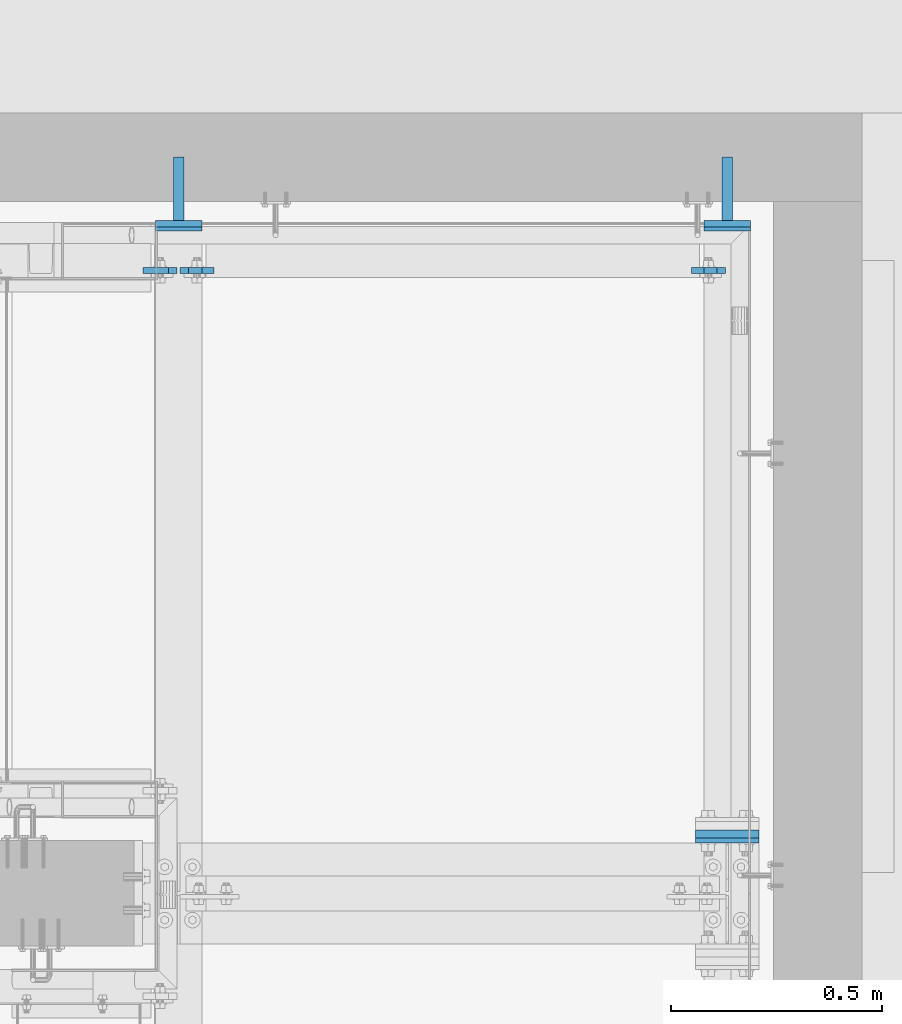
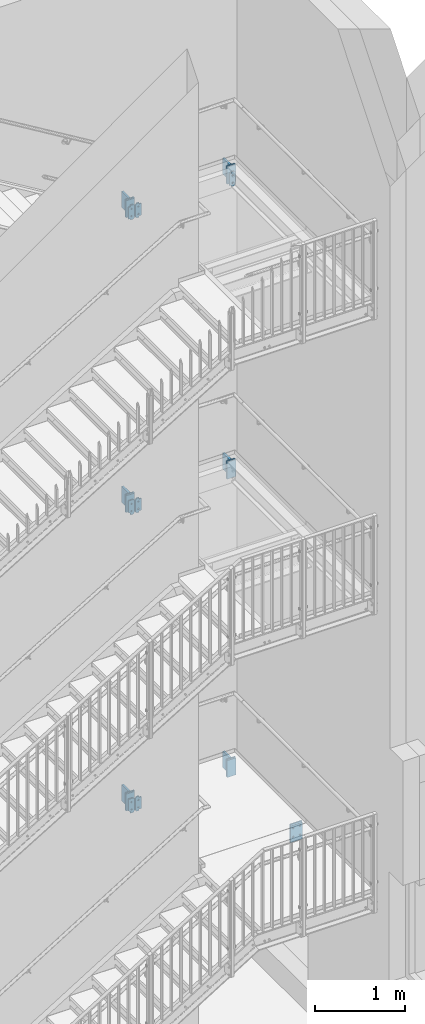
# One storey, part 66 of 410: 20 plates, 55 openings.
"""IFC2X3 building model written with IfcOpenShell, lengths in millimetres."""

from ifc_helpers import new_model, entity, si_unit, converted_unit, frame, frame_2d, origin, origin_with_axes, origin_2d_with_axis, place, context, project, spatial, polyline, circle, outline, extrude, material, layer, layer_set, element, save


model = new_model("IFC2X3")

# Units and contexts
model_context = context("Model", 3, precision=1e-09, world=origin_with_axes())
ifc_project = project(units=[si_unit("LENGTHUNIT", "METRE", prefix="MILLI"), si_unit("AREAUNIT", "SQUARE_METRE"), si_unit("VOLUMEUNIT", "CUBIC_METRE"), converted_unit("PLANEANGLEUNIT", "DEGREE", entity("IfcPlaneAngleMeasure", 0.01745329), si_unit("PLANEANGLEUNIT", "RADIAN"), dimensions=[0, 0, 0, 0, 0, 0, 0])], contexts=[model_context])

# Site, building, storey
site_placement = place(None, origin_with_axes())
site = spatial("IfcSite", under=ifc_project, at=site_placement, Name="mKR Teilneubau & Sanierung BA1 - Ostfildern", CompositionType="ELEMENT")
building_placement = place(site_placement, origin_with_axes())
building = spatial("IfcBuilding", under=site, at=building_placement, Name="Struktur 1", CompositionType="ELEMENT")
storey_placement = place(building_placement, origin_with_axes())
storey = spatial("IfcBuildingStorey", under=building, at=storey_placement, Name="Default Storey", CompositionType="ELEMENT", Elevation=0.0)

# Plate
ifc_material = material(Name="S235JR")
ifc_layer_1 = layer(ifc_material, 25.0)
ifc_layer_set_1 = layer_set([ifc_layer_1], Name="S235JR")
plate_1_placement = place(None, frame((3167.501468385, 18649.997183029, -2315.599999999), z_axis=(1.0, 0.0, 0.0), x_axis=(0.0, 1.0, 0.0)))
element("IfcPlate", 1, at=plate_1_placement, inside=storey, material=ifc_layer_set_1, Name="-", ObjectType="-", context=model_context, shape_type="SweptSolid", body=[
    extrude(outline(polyline([(-75.0, -110.0), (75.0, -110.0), (75.0, 110.0), (-75.0, 110.0), (-75.0, -110.0)])), origin_with_axes(), (0.0, 0.0, 1.0), 25.0),
])

# Plate, opening
plate_2_placement = place(None, frame((3180.001468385, 18574.996360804, -2325.6), z_axis=(0.0, -1.0, 0.0), x_axis=(1.0, 0.0, 0.0)))
plate_2 = element("IfcPlate", 2, at=plate_2_placement, inside=storey, material=ifc_layer_set_1, Name="-", ObjectType="-", context=model_context, shape_type="SweptSolid", body=[
    extrude(outline(polyline([(-55.0, -120.0), (55.0, -120.0), (55.0, 120.0), (-55.0, 120.0), (-55.0, -120.0)])), origin_with_axes(), (0.0, 0.0, 1.0), 25.0),
])
opening_1_placement = place(plate_2_placement, frame((-55.001, 120.0, 25.0), z_axis=(1.0, 0.0, 0.0), x_axis=(0.0, -1.0, 0.0)))
element("IfcOpeningElement", 3, at=opening_1_placement, cuts=plate_2, ObjectType="Opening", context=model_context, shape_type="SweptSolid", body=[
    extrude(outline(polyline([(0.0, 0.0), (9.0, 0.0), (0.0, 9.0), (0.0, 0.0)])), origin(), (0.0, 0.0, 1.0), 110.022),
])

# Plate
plate_3_placement = place(None, frame((3167.501468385, 18649.997183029, 1743.043478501), z_axis=(1.0, 0.0, 0.0), x_axis=(0.0, 1.0, 0.0)))
element("IfcPlate", 4, at=plate_3_placement, inside=storey, material=ifc_layer_set_1, Name="-", ObjectType="-", context=model_context, shape_type="SweptSolid", body=[
    extrude(outline(polyline([(-75.0, -110.0), (75.0, -110.0), (75.0, 110.0), (-75.0, 110.0), (-75.0, -110.0)])), origin_with_axes(), (0.0, 0.0, 1.0), 25.0),
])

# Plate, opening
plate_4_placement = place(None, frame((3180.001468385, 18574.996360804, 1733.0434785), z_axis=(0.0, -1.0, 0.0), x_axis=(1.0, 0.0, 0.0)))
plate_4 = element("IfcPlate", 5, at=plate_4_placement, inside=storey, material=ifc_layer_set_1, Name="-", ObjectType="-", context=model_context, shape_type="SweptSolid", body=[
    extrude(outline(polyline([(-55.0, -120.0), (55.0, -120.0), (55.0, 120.0), (-55.0, 120.0), (-55.0, -120.0)])), origin_with_axes(), (0.0, 0.0, 1.0), 25.0),
])
opening_2_placement = place(plate_4_placement, frame((-55.001, 120.0, 25.0), z_axis=(1.0, 0.0, 0.0), x_axis=(0.0, -1.0, 0.0)))
element("IfcOpeningElement", 6, at=opening_2_placement, cuts=plate_4, ObjectType="Opening", context=model_context, shape_type="SweptSolid", body=[
    extrude(outline(polyline([(0.0, 0.0), (9.0, 0.0), (0.0, 9.0), (0.0, 0.0)])), origin(), (0.0, 0.0, 1.0), 110.022),
])

# Plate
plate_5_placement = place(None, frame((1867.501468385, 18649.997183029, 1743.043478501), z_axis=(1.0, 0.0, 0.0), x_axis=(0.0, 1.0, 0.0)))
element("IfcPlate", 7, at=plate_5_placement, inside=storey, material=ifc_layer_set_1, Name="-", ObjectType="-", context=model_context, shape_type="SweptSolid", body=[
    extrude(outline(polyline([(-75.0, -110.0), (75.0, -110.0), (75.0, 110.0), (-75.0, 110.0), (-75.0, -110.0)])), origin_with_axes(), (0.0, 0.0, 1.0), 25.0),
])

# Plate, opening
plate_6_placement = place(None, frame((1880.001468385, 18574.996360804, 1733.0434785), z_axis=(0.0, -1.0, 0.0), x_axis=(1.0, 0.0, 0.0)))
plate_6 = element("IfcPlate", 8, at=plate_6_placement, inside=storey, material=ifc_layer_set_1, Name="-", ObjectType="-", context=model_context, shape_type="SweptSolid", body=[
    extrude(outline(polyline([(-55.0, -120.0), (55.0, -120.0), (55.0, 120.0), (-55.0, 120.0), (-55.0, -120.0)])), origin_with_axes(), (0.0, 0.0, 1.0), 25.0),
])
opening_3_placement = place(plate_6_placement, frame((-55.001, 120.0, 25.0), z_axis=(1.0, 0.0, 0.0), x_axis=(0.0, -1.0, 0.0)))
element("IfcOpeningElement", 9, at=opening_3_placement, cuts=plate_6, ObjectType="Opening", context=model_context, shape_type="SweptSolid", body=[
    extrude(outline(polyline([(0.0, 0.0), (9.0, 0.0), (0.0, 9.0), (0.0, 0.0)])), origin(), (0.0, 0.0, 1.0), 110.022),
])

# Plate, openings
ifc_layer_2 = layer(ifc_material, 30.0)
ifc_layer_set_2 = layer_set([ifc_layer_2], Name="S235JR")
plate_7_placement = place(None, frame((3180.001468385, 17100.0, -2325.599999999), z_axis=(0.0, 1.0, 0.0), x_axis=(-1.0, 0.0, 0.0)))
plate_7 = element("IfcPlate", 10, at=plate_7_placement, inside=storey, material=ifc_layer_set_2, Name="-", ObjectType="-", context=model_context, shape_type="SweptSolid", body=[
    extrude(outline(polyline([(-75.0, -120.0), (75.0, -120.0), (75.0, 120.0), (-75.0, 120.0), (-75.0, -120.0)])), origin_with_axes(), (0.0, 0.0, 1.0), 30.0),
])
opening_4_placement = place(plate_7_placement, frame((0.0, 10.0, -0.5), z_axis=(0.0, 0.0, 1.0), x_axis=(1.0, 0.0, 0.0)))
element("IfcOpeningElement", 11, at=opening_4_placement, cuts=plate_7, ObjectType="Opening", context=model_context, shape_type="SweptSolid", body=[
    extrude(circle(Radius=11.001, at=frame_2d((45.0, 60.0), x_axis=(1.0, 0.0))), origin(), (0.0, 0.0, 1.0), 31.0),
])
opening_5_placement = place(plate_7_placement, frame((0.0, 10.0, -0.5), z_axis=(0.0, 0.0, 1.0), x_axis=(1.0, 0.0, 0.0)))
element("IfcOpeningElement", 12, at=opening_5_placement, cuts=plate_7, ObjectType="Opening", context=model_context, shape_type="SweptSolid", body=[
    extrude(circle(Radius=11.001, at=frame_2d((-45.0, 60.0), x_axis=(1.0, 0.0))), origin(), (0.0, 0.0, 1.0), 31.0),
])
opening_6_placement = place(plate_7_placement, frame((0.0, 10.0, -0.5), z_axis=(0.0, 0.0, 1.0), x_axis=(1.0, 0.0, 0.0)))
element("IfcOpeningElement", 13, at=opening_6_placement, cuts=plate_7, ObjectType="Opening", context=model_context, shape_type="SweptSolid", body=[
    extrude(circle(Radius=11.001, at=frame_2d((45.0, -60.0), x_axis=(1.0, 0.0))), origin(), (0.0, 0.0, 1.0), 31.0),
])
opening_7_placement = place(plate_7_placement, frame((0.0, 10.0, -0.5), z_axis=(0.0, 0.0, 1.0), x_axis=(1.0, 0.0, 0.0)))
element("IfcOpeningElement", 14, at=opening_7_placement, cuts=plate_7, ObjectType="Opening", context=model_context, shape_type="SweptSolid", body=[
    extrude(circle(Radius=11.001, at=frame_2d((-45.0, -60.0), x_axis=(1.0, 0.0))), origin(), (0.0, 0.0, 1.0), 31.0),
])
opening_8_placement = place(plate_7_placement, frame((75.001, 120.0, 0.0), z_axis=(-1.0, 0.0, 0.0), x_axis=(0.0, -1.0, 0.0)))
element("IfcOpeningElement", 15, at=opening_8_placement, cuts=plate_7, ObjectType="Opening", context=model_context, shape_type="SweptSolid", body=[
    extrude(outline(polyline([(0.0, 0.0), (12.0, 0.0), (0.0, 12.0), (0.0, 0.0)])), origin(), (0.0, 0.0, 1.0), 150.022),
])
opening_9_placement = place(plate_7_placement, frame((0.0, 10.0, -0.5), z_axis=(0.0, 0.0, 1.0), x_axis=(1.0, 0.0, 0.0)))
element("IfcOpeningElement", 16, at=opening_9_placement, cuts=plate_7, ObjectType="Opening", context=model_context, shape_type="SweptSolid", body=[
    extrude(circle(Radius=11.001, at=frame_2d((45.0, 60.0), x_axis=(1.0, 0.0))), origin(), (0.0, 0.0, 1.0), 31.0),
])
opening_10_placement = place(plate_7_placement, frame((0.0, 10.0, -0.5), z_axis=(0.0, 0.0, 1.0), x_axis=(1.0, 0.0, 0.0)))
element("IfcOpeningElement", 17, at=opening_10_placement, cuts=plate_7, ObjectType="Opening", context=model_context, shape_type="SweptSolid", body=[
    extrude(circle(Radius=11.001, at=frame_2d((-45.0, 60.0), x_axis=(1.0, 0.0))), origin(), (0.0, 0.0, 1.0), 31.0),
])
opening_11_placement = place(plate_7_placement, frame((0.0, 10.0, -0.5), z_axis=(0.0, 0.0, 1.0), x_axis=(1.0, 0.0, 0.0)))
element("IfcOpeningElement", 18, at=opening_11_placement, cuts=plate_7, ObjectType="Opening", context=model_context, shape_type="SweptSolid", body=[
    extrude(circle(Radius=11.001, at=frame_2d((45.0, -60.0), x_axis=(1.0, 0.0))), origin(), (0.0, 0.0, 1.0), 31.0),
])
opening_12_placement = place(plate_7_placement, frame((0.0, 10.0, -0.5), z_axis=(0.0, 0.0, 1.0), x_axis=(1.0, 0.0, 0.0)))
element("IfcOpeningElement", 19, at=opening_12_placement, cuts=plate_7, ObjectType="Opening", context=model_context, shape_type="SweptSolid", body=[
    extrude(circle(Radius=11.001, at=frame_2d((-45.0, -60.0), x_axis=(1.0, 0.0))), origin(), (0.0, 0.0, 1.0), 31.0),
])

# Plate
plate_8_placement = place(None, frame((1867.501468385, 18649.997183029, -2315.599999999), z_axis=(1.0, 0.0, 0.0), x_axis=(0.0, 1.0, 0.0)))
element("IfcPlate", 20, at=plate_8_placement, inside=storey, material=ifc_layer_set_1, Name="-", ObjectType="-", context=model_context, shape_type="SweptSolid", body=[
    extrude(outline(polyline([(-75.0, -110.0), (75.0, -110.0), (75.0, 110.0), (-75.0, 110.0), (-75.0, -110.0)])), origin_with_axes(), (0.0, 0.0, 1.0), 25.0),
])

# Plate, opening
plate_9_placement = place(None, frame((1880.001468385, 18574.996360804, -2325.6), z_axis=(0.0, -1.0, 0.0), x_axis=(1.0, 0.0, 0.0)))
plate_9 = element("IfcPlate", 21, at=plate_9_placement, inside=storey, material=ifc_layer_set_1, Name="-", ObjectType="-", context=model_context, shape_type="SweptSolid", body=[
    extrude(outline(polyline([(-55.0, -120.0), (55.0, -120.0), (55.0, 120.0), (-55.0, 120.0), (-55.0, -120.0)])), origin_with_axes(), (0.0, 0.0, 1.0), 25.0),
])
opening_13_placement = place(plate_9_placement, frame((-55.001, 120.0, 25.0), z_axis=(1.0, 0.0, 0.0), x_axis=(0.0, -1.0, 0.0)))
element("IfcOpeningElement", 22, at=opening_13_placement, cuts=plate_9, ObjectType="Opening", context=model_context, shape_type="SweptSolid", body=[
    extrude(outline(polyline([(0.0, 0.0), (9.0, 0.0), (0.0, 9.0), (0.0, 0.0)])), origin(), (0.0, 0.0, 1.0), 110.022),
])

# Plate, openings
ifc_layer_3 = layer(ifc_material, 15.0)
ifc_layer_set_3 = layer_set([ifc_layer_3], Name="S235JR")
plate_10_placement = place(None, frame((1876.051468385, 18448.999999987, 5854.300000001), z_axis=(0.0, -1.0, 0.0), x_axis=(-1.0, 0.0, 0.0)))
plate_10 = element("IfcPlate", 23, at=plate_10_placement, inside=storey, material=ifc_layer_set_3, Name="LugPlate#1", ObjectType="LugPlate#1", context=model_context, shape_type="SweptSolid", body=[
    extrude(outline(polyline([(0.0, 0.0), (80.0, 0.0), (80.0, 198.6), (0.0, 198.6), (0.0, 0.0)])), origin_with_axes(), (0.0, 0.0, -1.0), 15.0),
])
opening_14_placement = place(plate_10_placement, frame((0.0, 0.0, 0.01), z_axis=(0.0, 0.0, 1.0), x_axis=(1.0, 0.0, 0.0)))
element("IfcOpeningElement", 24, at=opening_14_placement, cuts=plate_10, ObjectType="Opening", context=model_context, shape_type="SweptSolid", body=[
    extrude(outline(polyline([(0.0, 0.0), (20.0, 0.0), (0.0, 20.0), (0.0, 0.0)])), origin(), (0.0, 0.0, -1.0), 15.02),
])
opening_15_placement = place(plate_10_placement, frame((0.0, 198.6, 0.01), z_axis=(0.0, 0.0, 1.0), x_axis=(0.0, -1.0, 0.0)))
element("IfcOpeningElement", 25, at=opening_15_placement, cuts=plate_10, ObjectType="Opening", context=model_context, shape_type="SweptSolid", body=[
    extrude(outline(polyline([(0.0, 0.0), (20.0, 0.0), (0.0, 20.0), (0.0, 0.0)])), origin(), (0.0, 0.0, -1.0), 15.02),
])
opening_16_placement = place(plate_10_placement, frame((99.857709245, 209.301, -15.1), z_axis=(0.0, 0.0, -1.0), x_axis=(0.0, -1.0, 0.0)))
element("IfcOpeningElement", 26, at=opening_16_placement, cuts=plate_10, ObjectType="Opening", context=model_context, shape_type="SweptSolid", body=[
    extrude(outline(polyline([(0.0, 0.0), (30.002, 0.0), (30.002, 48.808709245), (0.0, 48.808709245), (0.0, 0.0)])), origin(), (0.0, 0.0, -1.0), 15.2),
])
opening_17_placement = place(plate_10_placement, frame((95.314579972, 19.301, -15.1), z_axis=(0.0, 0.0, -1.0), x_axis=(0.0, -1.0, 0.0)))
element("IfcOpeningElement", 27, at=opening_17_placement, cuts=plate_10, ObjectType="Opening", context=model_context, shape_type="SweptSolid", body=[
    extrude(outline(polyline([(0.0, 0.0), (30.001999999, 0.0), (30.001999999, 44.265579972), (0.0, 44.265579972), (0.0, 0.0)])), origin(), (0.0, 0.0, -1.0), 15.2),
])
opening_18_placement = place(plate_10_placement, frame((40.0, 49.300000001, -15.5), z_axis=(0.0, 0.0, 1.0), x_axis=(1.0, 0.0, 0.0)))
element("IfcOpeningElement", 28, at=opening_18_placement, cuts=plate_10, ObjectType="Opening", context=model_context, shape_type="SweptSolid", body=[
    extrude(circle(Radius=9.001, at=frame_2d((0.0, 100.0), x_axis=(1.0, 0.0))), origin(), (0.0, 0.0, 1.0), 16.0),
])
opening_19_placement = place(plate_10_placement, frame((40.0, 49.300000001, -15.5), z_axis=(0.0, 0.0, 1.0), x_axis=(1.0, 0.0, 0.0)))
element("IfcOpeningElement", 29, at=opening_19_placement, cuts=plate_10, ObjectType="Opening", context=model_context, shape_type="SweptSolid", body=[
    extrude(circle(Radius=9.001, at=origin_2d_with_axis()), origin(), (0.0, 0.0, 1.0), 16.0),
])

plate_11_placement = place(None, frame((1876.050468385, 18449.000000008, 1842.342478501), z_axis=(0.0, -1.0, 0.0), x_axis=(-1.0, 0.0, 0.0)))
plate_11 = element("IfcPlate", 30, at=plate_11_placement, inside=storey, material=ifc_layer_set_3, Name="LugPlate#1", ObjectType="LugPlate#1", context=model_context, shape_type="SweptSolid", body=[
    extrude(outline(polyline([(0.0, 0.0), (80.0, 0.0), (80.0, 198.6), (0.0, 198.6), (0.0, 0.0)])), origin_with_axes(), (0.0, 0.0, -1.0), 15.0),
])
opening_20_placement = place(plate_11_placement, frame((0.0, 0.0, 0.01), z_axis=(0.0, 0.0, 1.0), x_axis=(1.0, 0.0, 0.0)))
element("IfcOpeningElement", 31, at=opening_20_placement, cuts=plate_11, ObjectType="Opening", context=model_context, shape_type="SweptSolid", body=[
    extrude(outline(polyline([(0.0, 0.0), (20.0, 0.0), (0.0, 20.0), (0.0, 0.0)])), origin(), (0.0, 0.0, -1.0), 15.02),
])
opening_21_placement = place(plate_11_placement, frame((0.0, 198.6, 0.01), z_axis=(0.0, 0.0, 1.0), x_axis=(0.0, -1.0, 0.0)))
element("IfcOpeningElement", 32, at=opening_21_placement, cuts=plate_11, ObjectType="Opening", context=model_context, shape_type="SweptSolid", body=[
    extrude(outline(polyline([(0.0, 0.0), (20.0, 0.0), (0.0, 20.0), (0.0, 0.0)])), origin(), (0.0, 0.0, -1.0), 15.02),
])
opening_22_placement = place(plate_11_placement, frame((100.040499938, 215.84577283, -15.1), z_axis=(0.0, 0.0, -1.0), x_axis=(0.127825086, -0.991796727, 0.0)))
element("IfcOpeningElement", 33, at=opening_22_placement, cuts=plate_11, ObjectType="Opening", context=model_context, shape_type="SweptSolid", body=[
    extrude(outline(polyline([(0.0, 0.0), (76.985732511, 0.0), (34.405529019, 53.83097988), (0.228865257, 49.426211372), (0.0, 0.0)])), origin(), (0.0, 0.0, -1.0), 15.2),
])
opening_23_placement = place(plate_11_placement, frame((40.0, 49.300000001, -15.5), z_axis=(0.0, 0.0, 1.0), x_axis=(1.0, 0.0, 0.0)))
element("IfcOpeningElement", 34, at=opening_23_placement, cuts=plate_11, ObjectType="Opening", context=model_context, shape_type="SweptSolid", body=[
    extrude(circle(Radius=9.001, at=frame_2d((0.0, 100.0), x_axis=(1.0, 0.0))), origin(), (0.0, 0.0, 1.0), 16.0),
])
opening_24_placement = place(plate_11_placement, frame((40.0, 49.300000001, -15.5), z_axis=(0.0, 0.0, 1.0), x_axis=(1.0, 0.0, 0.0)))
element("IfcOpeningElement", 35, at=opening_24_placement, cuts=plate_11, ObjectType="Opening", context=model_context, shape_type="SweptSolid", body=[
    extrude(circle(Radius=9.001, at=origin_2d_with_axis()), origin(), (0.0, 0.0, 1.0), 16.0),
])

plate_12_placement = place(None, frame((1876.050468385, 18448.999999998, -2216.300999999), z_axis=(0.0, -1.0, 0.0), x_axis=(-1.0, 0.0, 0.0)))
plate_12 = element("IfcPlate", 36, at=plate_12_placement, inside=storey, material=ifc_layer_set_3, Name="LugPlate#1", ObjectType="LugPlate#1", context=model_context, shape_type="SweptSolid", body=[
    extrude(outline(polyline([(0.0, 0.0), (80.0, 0.0), (80.0, 198.6), (0.0, 198.6), (0.0, 0.0)])), origin_with_axes(), (0.0, 0.0, -1.0), 15.0),
])
opening_25_placement = place(plate_12_placement, frame((0.0, 0.0, 0.01), z_axis=(0.0, 0.0, 1.0), x_axis=(1.0, 0.0, 0.0)))
element("IfcOpeningElement", 37, at=opening_25_placement, cuts=plate_12, ObjectType="Opening", context=model_context, shape_type="SweptSolid", body=[
    extrude(outline(polyline([(0.0, 0.0), (20.0, 0.0), (0.0, 20.0), (0.0, 0.0)])), origin(), (0.0, 0.0, -1.0), 15.02),
])
opening_26_placement = place(plate_12_placement, frame((0.0, 198.6, 0.01), z_axis=(0.0, 0.0, 1.0), x_axis=(0.0, -1.0, 0.0)))
element("IfcOpeningElement", 38, at=opening_26_placement, cuts=plate_12, ObjectType="Opening", context=model_context, shape_type="SweptSolid", body=[
    extrude(outline(polyline([(0.0, 0.0), (20.0, 0.0), (0.0, 20.0), (0.0, 0.0)])), origin(), (0.0, 0.0, -1.0), 15.02),
])
opening_27_placement = place(plate_12_placement, frame((100.040499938, 215.84577283, -15.1), z_axis=(0.0, 0.0, -1.0), x_axis=(0.127825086, -0.991796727, 0.0)))
element("IfcOpeningElement", 39, at=opening_27_placement, cuts=plate_12, ObjectType="Opening", context=model_context, shape_type="SweptSolid", body=[
    extrude(outline(polyline([(0.0, 0.0), (76.985732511, 0.0), (34.405529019, 53.83097988), (0.228865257, 49.426211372), (0.0, 0.0)])), origin(), (0.0, 0.0, -1.0), 15.2),
])
opening_28_placement = place(plate_12_placement, frame((40.0, 49.300000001, -15.5), z_axis=(0.0, 0.0, 1.0), x_axis=(1.0, 0.0, 0.0)))
element("IfcOpeningElement", 40, at=opening_28_placement, cuts=plate_12, ObjectType="Opening", context=model_context, shape_type="SweptSolid", body=[
    extrude(circle(Radius=9.001, at=frame_2d((0.0, 100.0), x_axis=(1.0, 0.0))), origin(), (0.0, 0.0, 1.0), 16.0),
])
opening_29_placement = place(plate_12_placement, frame((40.0, 49.300000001, -15.5), z_axis=(0.0, 0.0, 1.0), x_axis=(1.0, 0.0, 0.0)))
element("IfcOpeningElement", 41, at=opening_29_placement, cuts=plate_12, ObjectType="Opening", context=model_context, shape_type="SweptSolid", body=[
    extrude(circle(Radius=9.001, at=origin_2d_with_axis()), origin(), (0.0, 0.0, 1.0), 16.0),
])

# Plate
plate_13_placement = place(None, frame((1867.501468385, 18649.997183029, 5755.000000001), z_axis=(1.0, 0.0, 0.0), x_axis=(0.0, 1.0, 0.0)))
element("IfcPlate", 42, at=plate_13_placement, inside=storey, material=ifc_layer_set_1, Name="-", ObjectType="-", context=model_context, shape_type="SweptSolid", body=[
    extrude(outline(polyline([(-75.0, -110.0), (75.0, -110.0), (75.0, 110.0), (-75.0, 110.0), (-75.0, -110.0)])), origin_with_axes(), (0.0, 0.0, 1.0), 25.0),
])

# Plate, opening
plate_14_placement = place(None, frame((1880.001468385, 18574.996360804, 5745.0), z_axis=(0.0, -1.0, 0.0), x_axis=(1.0, 0.0, 0.0)))
plate_14 = element("IfcPlate", 43, at=plate_14_placement, inside=storey, material=ifc_layer_set_1, Name="-", ObjectType="-", context=model_context, shape_type="SweptSolid", body=[
    extrude(outline(polyline([(-55.0, -120.0), (55.0, -120.0), (55.0, 120.0), (-55.0, 120.0), (-55.0, -120.0)])), origin_with_axes(), (0.0, 0.0, 1.0), 25.0),
])
opening_30_placement = place(plate_14_placement, frame((-55.001, 120.0, 25.0), z_axis=(1.0, 0.0, 0.0), x_axis=(0.0, -1.0, 0.0)))
element("IfcOpeningElement", 44, at=opening_30_placement, cuts=plate_14, ObjectType="Opening", context=model_context, shape_type="SweptSolid", body=[
    extrude(outline(polyline([(0.0, 0.0), (9.0, 0.0), (0.0, 9.0), (0.0, 0.0)])), origin(), (0.0, 0.0, 1.0), 110.022),
])

# Plate, openings
plate_15_placement = place(None, frame((3176.051468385, 18448.999999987, 5854.300000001), z_axis=(0.0, -1.0, 0.0), x_axis=(-1.0, 0.0, 0.0)))
plate_15 = element("IfcPlate", 45, at=plate_15_placement, inside=storey, material=ifc_layer_set_3, Name="LugPlate#1", ObjectType="LugPlate#1", context=model_context, shape_type="SweptSolid", body=[
    extrude(outline(polyline([(0.0, 0.0), (80.0, 0.0), (80.0, 198.6), (0.0, 198.6), (0.0, 0.0)])), origin_with_axes(), (0.0, 0.0, -1.0), 15.0),
])
opening_31_placement = place(plate_15_placement, frame((0.0, 0.0, 0.01), z_axis=(0.0, 0.0, 1.0), x_axis=(1.0, 0.0, 0.0)))
element("IfcOpeningElement", 46, at=opening_31_placement, cuts=plate_15, ObjectType="Opening", context=model_context, shape_type="SweptSolid", body=[
    extrude(outline(polyline([(0.0, 0.0), (20.0, 0.0), (0.0, 20.0), (0.0, 0.0)])), origin(), (0.0, 0.0, -1.0), 15.02),
])
opening_32_placement = place(plate_15_placement, frame((0.0, 198.6, 0.01), z_axis=(0.0, 0.0, 1.0), x_axis=(0.0, -1.0, 0.0)))
element("IfcOpeningElement", 47, at=opening_32_placement, cuts=plate_15, ObjectType="Opening", context=model_context, shape_type="SweptSolid", body=[
    extrude(outline(polyline([(0.0, 0.0), (20.0, 0.0), (0.0, 20.0), (0.0, 0.0)])), origin(), (0.0, 0.0, -1.0), 15.02),
])
opening_33_placement = place(plate_15_placement, frame((99.857709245, 209.301, -15.1), z_axis=(0.0, 0.0, -1.0), x_axis=(0.0, -1.0, 0.0)))
element("IfcOpeningElement", 48, at=opening_33_placement, cuts=plate_15, ObjectType="Opening", context=model_context, shape_type="SweptSolid", body=[
    extrude(outline(polyline([(0.0, 0.0), (30.002, 0.0), (30.002, 48.808709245), (0.0, 48.808709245), (0.0, 0.0)])), origin(), (0.0, 0.0, -1.0), 15.2),
])
opening_34_placement = place(plate_15_placement, frame((95.314579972, 19.301, -15.1), z_axis=(0.0, 0.0, -1.0), x_axis=(0.0, -1.0, 0.0)))
element("IfcOpeningElement", 49, at=opening_34_placement, cuts=plate_15, ObjectType="Opening", context=model_context, shape_type="SweptSolid", body=[
    extrude(outline(polyline([(0.0, 0.0), (30.001999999, 0.0), (30.001999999, 44.265579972), (0.0, 44.265579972), (0.0, 0.0)])), origin(), (0.0, 0.0, -1.0), 15.2),
])
opening_35_placement = place(plate_15_placement, frame((40.0, 49.300000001, -15.5), z_axis=(0.0, 0.0, 1.0), x_axis=(1.0, 0.0, 0.0)))
element("IfcOpeningElement", 50, at=opening_35_placement, cuts=plate_15, ObjectType="Opening", context=model_context, shape_type="SweptSolid", body=[
    extrude(circle(Radius=9.001, at=frame_2d((0.0, 100.0), x_axis=(1.0, 0.0))), origin(), (0.0, 0.0, 1.0), 16.0),
])
opening_36_placement = place(plate_15_placement, frame((40.0, 49.300000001, -15.5), z_axis=(0.0, 0.0, 1.0), x_axis=(1.0, 0.0, 0.0)))
element("IfcOpeningElement", 51, at=opening_36_placement, cuts=plate_15, ObjectType="Opening", context=model_context, shape_type="SweptSolid", body=[
    extrude(circle(Radius=9.001, at=origin_2d_with_axis()), origin(), (0.0, 0.0, 1.0), 16.0),
])

plate_16_placement = place(None, frame((1883.951468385, 18448.999999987, 5854.300000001), z_axis=(0.0, 1.0, 0.0), x_axis=(1.0, 0.0, 0.0)))
plate_16 = element("IfcPlate", 52, at=plate_16_placement, inside=storey, material=ifc_layer_set_3, Name="LugPlate#1", ObjectType="LugPlate#1", context=model_context, shape_type="SweptSolid", body=[
    extrude(outline(polyline([(0.0, 0.0), (80.0, 0.0), (80.0, 198.6), (0.0, 198.6), (0.0, 0.0)])), origin_with_axes(), (0.0, 0.0, 1.0), 15.0),
])
opening_37_placement = place(plate_16_placement, frame((0.0, 0.0, -0.01), z_axis=(0.0, 0.0, 1.0), x_axis=(1.0, 0.0, 0.0)))
element("IfcOpeningElement", 53, at=opening_37_placement, cuts=plate_16, ObjectType="Opening", context=model_context, shape_type="SweptSolid", body=[
    extrude(outline(polyline([(0.0, 0.0), (20.0, 0.0), (0.0, 20.0), (0.0, 0.0)])), origin(), (0.0, 0.0, 1.0), 15.02),
])
opening_38_placement = place(plate_16_placement, frame((0.0, 0.0, -0.01), z_axis=(0.0, 0.0, 1.0), x_axis=(1.0, 0.0, 0.0)))
element("IfcOpeningElement", 54, at=opening_38_placement, cuts=plate_16, ObjectType="Opening", context=model_context, shape_type="SweptSolid", body=[
    extrude(outline(polyline([(0.0, 198.6), (0.0, 178.6), (20.0, 198.6), (0.0, 198.6)])), origin(), (0.0, 0.0, 1.0), 15.02),
])
opening_39_placement = place(plate_16_placement, frame((0.0, 0.0, 15.1), z_axis=(0.0, 0.0, -1.0), x_axis=(0.0, -1.0, 0.0)))
element("IfcOpeningElement", 55, at=opening_39_placement, cuts=plate_16, ObjectType="Opening", context=model_context, shape_type="SweptSolid", body=[
    extrude(outline(polyline([(-209.301, -99.857709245), (-179.299, -99.857709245), (-179.299, -51.049), (-209.301, -51.049), (-209.301, -99.857709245)])), origin(), (0.0, 0.0, 1.0), 15.2),
])
opening_40_placement = place(plate_16_placement, frame((0.0, 0.0, 15.1), z_axis=(0.0, 0.0, -1.0), x_axis=(0.0, -1.0, 0.0)))
element("IfcOpeningElement", 56, at=opening_40_placement, cuts=plate_16, ObjectType="Opening", context=model_context, shape_type="SweptSolid", body=[
    extrude(outline(polyline([(-19.301, -95.314579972), (10.700999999, -95.314579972), (10.700999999, -51.049), (-19.301, -51.049), (-19.301, -95.314579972)])), origin(), (0.0, 0.0, 1.0), 15.2),
])
opening_41_placement = place(plate_16_placement, frame((30.999, 149.300000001, 15.5), z_axis=(0.0, 0.0, 1.0), x_axis=(1.0, 0.0, 0.0)))
element("IfcOpeningElement", 57, at=opening_41_placement, cuts=plate_16, ObjectType="Opening", context=model_context, shape_type="SweptSolid", body=[
    extrude(circle(Radius=9.001, at=frame_2d((9.001, 0.0), x_axis=(1.0, 0.0))), origin(), (0.0, 0.0, -1.0), 16.0),
])
opening_42_placement = place(plate_16_placement, frame((30.999, 49.300000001, 15.5), z_axis=(0.0, 0.0, 1.0), x_axis=(1.0, 0.0, 0.0)))
element("IfcOpeningElement", 58, at=opening_42_placement, cuts=plate_16, ObjectType="Opening", context=model_context, shape_type="SweptSolid", body=[
    extrude(circle(Radius=9.001, at=frame_2d((9.001, 0.0), x_axis=(1.0, 0.0))), origin(), (0.0, 0.0, -1.0), 16.0),
])

# Plate
plate_17_placement = place(None, frame((3167.501468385, 18649.997183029, 5755.000000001), z_axis=(1.0, 0.0, 0.0), x_axis=(0.0, 1.0, 0.0)))
element("IfcPlate", 59, at=plate_17_placement, inside=storey, material=ifc_layer_set_1, Name="-", ObjectType="-", context=model_context, shape_type="SweptSolid", body=[
    extrude(outline(polyline([(-75.0, -110.0), (75.0, -110.0), (75.0, 110.0), (-75.0, 110.0), (-75.0, -110.0)])), origin_with_axes(), (0.0, 0.0, 1.0), 25.0),
])

# Plate, opening
plate_18_placement = place(None, frame((3180.001468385, 18574.996360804, 5745.0), z_axis=(0.0, -1.0, 0.0), x_axis=(1.0, 0.0, 0.0)))
plate_18 = element("IfcPlate", 60, at=plate_18_placement, inside=storey, material=ifc_layer_set_1, Name="-", ObjectType="-", context=model_context, shape_type="SweptSolid", body=[
    extrude(outline(polyline([(-55.0, -120.0), (55.0, -120.0), (55.0, 120.0), (-55.0, 120.0), (-55.0, -120.0)])), origin_with_axes(), (0.0, 0.0, 1.0), 25.0),
])
opening_43_placement = place(plate_18_placement, frame((-55.001, 120.0, 25.0), z_axis=(1.0, 0.0, 0.0), x_axis=(0.0, -1.0, 0.0)))
element("IfcOpeningElement", 61, at=opening_43_placement, cuts=plate_18, ObjectType="Opening", context=model_context, shape_type="SweptSolid", body=[
    extrude(outline(polyline([(0.0, 0.0), (9.0, 0.0), (0.0, 9.0), (0.0, 0.0)])), origin(), (0.0, 0.0, 1.0), 110.022),
])

# Plate, openings
plate_19_placement = place(None, frame((1883.951468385, 18448.999999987, 1842.343478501), z_axis=(0.0, 1.0, 0.0), x_axis=(1.0, 0.0, 0.0)))
plate_19 = element("IfcPlate", 62, at=plate_19_placement, inside=storey, material=ifc_layer_set_3, Name="LugPlate#1", ObjectType="LugPlate#1", context=model_context, shape_type="SweptSolid", body=[
    extrude(outline(polyline([(0.0, 0.0), (80.0, 0.0), (80.0, 198.6), (0.0, 198.6), (0.0, 0.0)])), origin_with_axes(), (0.0, 0.0, 1.0), 15.0),
])
opening_44_placement = place(plate_19_placement, frame((0.0, 0.0, -0.01), z_axis=(0.0, 0.0, 1.0), x_axis=(1.0, 0.0, 0.0)))
element("IfcOpeningElement", 63, at=opening_44_placement, cuts=plate_19, ObjectType="Opening", context=model_context, shape_type="SweptSolid", body=[
    extrude(outline(polyline([(0.0, 0.0), (20.0, 0.0), (0.0, 20.0), (0.0, 0.0)])), origin(), (0.0, 0.0, 1.0), 15.02),
])
opening_45_placement = place(plate_19_placement, frame((0.0, 0.0, -0.01), z_axis=(0.0, 0.0, 1.0), x_axis=(1.0, 0.0, 0.0)))
element("IfcOpeningElement", 64, at=opening_45_placement, cuts=plate_19, ObjectType="Opening", context=model_context, shape_type="SweptSolid", body=[
    extrude(outline(polyline([(0.0, 198.6), (0.0, 178.6), (20.0, 198.6), (0.0, 198.6)])), origin(), (0.0, 0.0, 1.0), 15.02),
])
opening_46_placement = place(plate_19_placement, frame((0.0, 0.0, 15.1), z_axis=(0.0, 0.0, -1.0), x_axis=(0.0, -1.0, 0.0)))
element("IfcOpeningElement", 65, at=opening_46_placement, cuts=plate_19, ObjectType="Opening", context=model_context, shape_type="SweptSolid", body=[
    extrude(outline(polyline([(-209.301, -99.857709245), (-179.299, -99.857709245), (-179.299, -51.049), (-209.301, -51.049), (-209.301, -99.857709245)])), origin(), (0.0, 0.0, 1.0), 15.2),
])
opening_47_placement = place(plate_19_placement, frame((0.0, 0.0, 15.1), z_axis=(0.0, 0.0, -1.0), x_axis=(0.0, -1.0, 0.0)))
element("IfcOpeningElement", 66, at=opening_47_placement, cuts=plate_19, ObjectType="Opening", context=model_context, shape_type="SweptSolid", body=[
    extrude(outline(polyline([(-19.301, -95.314579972), (10.700999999, -95.314579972), (10.700999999, -51.049), (-19.301, -51.049), (-19.301, -95.314579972)])), origin(), (0.0, 0.0, 1.0), 15.2),
])
opening_48_placement = place(plate_19_placement, frame((30.999, 149.300000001, 15.5), z_axis=(0.0, 0.0, 1.0), x_axis=(1.0, 0.0, 0.0)))
element("IfcOpeningElement", 67, at=opening_48_placement, cuts=plate_19, ObjectType="Opening", context=model_context, shape_type="SweptSolid", body=[
    extrude(circle(Radius=9.001, at=frame_2d((9.001, 0.0), x_axis=(1.0, 0.0))), origin(), (0.0, 0.0, -1.0), 16.0),
])
opening_49_placement = place(plate_19_placement, frame((30.999, 49.300000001, 15.5), z_axis=(0.0, 0.0, 1.0), x_axis=(1.0, 0.0, 0.0)))
element("IfcOpeningElement", 68, at=opening_49_placement, cuts=plate_19, ObjectType="Opening", context=model_context, shape_type="SweptSolid", body=[
    extrude(circle(Radius=9.001, at=frame_2d((9.001, 0.0), x_axis=(1.0, 0.0))), origin(), (0.0, 0.0, -1.0), 16.0),
])

plate_20_placement = place(None, frame((1883.951468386, 18448.999999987, -2216.299999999), z_axis=(0.0, 1.0, 0.0), x_axis=(1.0, 0.0, 0.0)))
plate_20 = element("IfcPlate", 69, at=plate_20_placement, inside=storey, material=ifc_layer_set_3, Name="LugPlate#1", ObjectType="LugPlate#1", context=model_context, shape_type="SweptSolid", body=[
    extrude(outline(polyline([(0.0, 0.0), (80.0, 0.0), (80.0, 198.6), (0.0, 198.6), (0.0, 0.0)])), origin_with_axes(), (0.0, 0.0, 1.0), 15.0),
])
opening_50_placement = place(plate_20_placement, frame((0.0, 0.0, -0.01), z_axis=(0.0, 0.0, 1.0), x_axis=(1.0, 0.0, 0.0)))
element("IfcOpeningElement", 70, at=opening_50_placement, cuts=plate_20, ObjectType="Opening", context=model_context, shape_type="SweptSolid", body=[
    extrude(outline(polyline([(0.0, 0.0), (20.0, 0.0), (0.0, 20.0), (0.0, 0.0)])), origin(), (0.0, 0.0, 1.0), 15.02),
])
opening_51_placement = place(plate_20_placement, frame((0.0, 0.0, -0.01), z_axis=(0.0, 0.0, 1.0), x_axis=(1.0, 0.0, 0.0)))
element("IfcOpeningElement", 71, at=opening_51_placement, cuts=plate_20, ObjectType="Opening", context=model_context, shape_type="SweptSolid", body=[
    extrude(outline(polyline([(0.0, 198.6), (0.0, 178.6), (20.0, 198.6), (0.0, 198.6)])), origin(), (0.0, 0.0, 1.0), 15.02),
])
opening_52_placement = place(plate_20_placement, frame((0.0, 0.0, 15.1), z_axis=(0.0, 0.0, -1.0), x_axis=(0.0, -1.0, 0.0)))
element("IfcOpeningElement", 72, at=opening_52_placement, cuts=plate_20, ObjectType="Opening", context=model_context, shape_type="SweptSolid", body=[
    extrude(outline(polyline([(-209.301, -99.857709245), (-179.299, -99.857709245), (-179.299, -51.049), (-209.301, -51.049), (-209.301, -99.857709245)])), origin(), (0.0, 0.0, 1.0), 15.2),
])
opening_53_placement = place(plate_20_placement, frame((0.0, 0.0, 15.1), z_axis=(0.0, 0.0, -1.0), x_axis=(0.0, -1.0, 0.0)))
element("IfcOpeningElement", 73, at=opening_53_placement, cuts=plate_20, ObjectType="Opening", context=model_context, shape_type="SweptSolid", body=[
    extrude(outline(polyline([(-19.301, -95.314579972), (10.700999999, -95.314579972), (10.700999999, -51.049), (-19.301, -51.049), (-19.301, -95.314579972)])), origin(), (0.0, 0.0, 1.0), 15.2),
])
opening_54_placement = place(plate_20_placement, frame((30.999, 149.300000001, 15.5), z_axis=(0.0, 0.0, 1.0), x_axis=(1.0, 0.0, 0.0)))
element("IfcOpeningElement", 74, at=opening_54_placement, cuts=plate_20, ObjectType="Opening", context=model_context, shape_type="SweptSolid", body=[
    extrude(circle(Radius=9.001, at=frame_2d((9.001, 0.0), x_axis=(1.0, 0.0))), origin(), (0.0, 0.0, -1.0), 16.0),
])
opening_55_placement = place(plate_20_placement, frame((30.999, 49.300000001, 15.5), z_axis=(0.0, 0.0, 1.0), x_axis=(1.0, 0.0, 0.0)))
element("IfcOpeningElement", 75, at=opening_55_placement, cuts=plate_20, ObjectType="Opening", context=model_context, shape_type="SweptSolid", body=[
    extrude(circle(Radius=9.001, at=frame_2d((9.001, 0.0), x_axis=(1.0, 0.0))), origin(), (0.0, 0.0, -1.0), 16.0),
])

save(model, "model.ifc")
